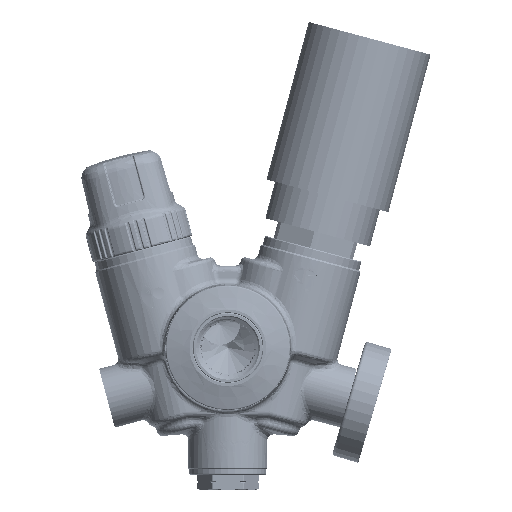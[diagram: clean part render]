
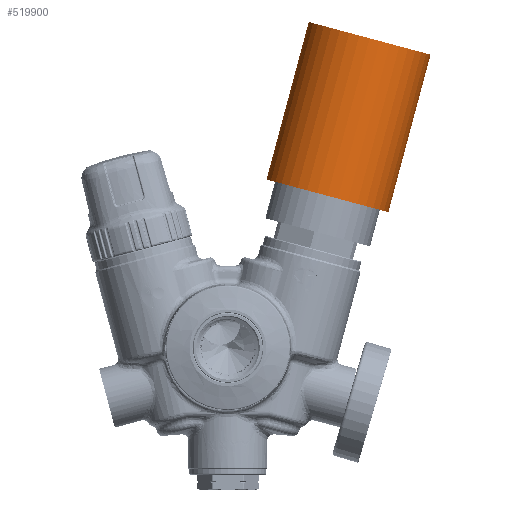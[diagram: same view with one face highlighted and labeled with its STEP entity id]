
A CAD part, left-side view. The second image highlights one B-rep face of the part: STEP entity #519900.
In plain terms, the highlighted cylindrical face has radius 20.766 mm (diameter 41.532 mm), a partial arc.
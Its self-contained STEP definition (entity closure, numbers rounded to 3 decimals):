
#519751 = VERTEX_POINT('',#519752);
#519752 = CARTESIAN_POINT('',(18.931,-41.024,
    94.611));
#519759 = PLANE('',#519760);
#519760 = AXIS2_PLACEMENT_3D('',#519761,#519762,#519763);
#519761 = CARTESIAN_POINT('',(14.198,-24.534,
    99.03));
#519762 = DIRECTION('',(0.,0.259,-0.966));
#519763 = DIRECTION('',(1.,0.,0.));
#519771 = PLANE('',#519772);
#519772 = AXIS2_PLACEMENT_3D('',#519773,#519774,#519775);
#519773 = CARTESIAN_POINT('',(16.428,-47.967,
    120.524));
#519774 = DIRECTION('',(0.,0.966,0.259));
#519775 = DIRECTION('',(0.,-0.259,0.966));
#519783 = EDGE_CURVE('',#519784,#519751,#519786,.T.);
#519784 = VERTEX_POINT('',#519785);
#519785 = CARTESIAN_POINT('',(18.931,-24.534,
    99.03));
#519786 = SURFACE_CURVE('',#519787,(#519792,#519803),.PCURVE_S1.);
#519787 = CIRCLE('',#519788,20.766);
#519788 = AXIS2_PLACEMENT_3D('',#519789,#519790,#519791);
#519789 = CARTESIAN_POINT('',(0.,-32.779,
    96.821));
#519790 = DIRECTION('',(0.,-0.259,0.966));
#519791 = DIRECTION('',(1.,0.,0.));
#519792 = PCURVE('',#519759,#519793);
#519793 = DEFINITIONAL_REPRESENTATION('',(#519794),#519802);
#519794 = ( BOUNDED_CURVE() B_SPLINE_CURVE(2,(#519795,#519796,#519797,
    #519798,#519799,#519800,#519801),.UNSPECIFIED.,.T.,.F.) 
B_SPLINE_CURVE_WITH_KNOTS((1,2,2,2,2,1),(-2.094,0.,
    2.094,4.189,6.283,8.378),
.UNSPECIFIED.) CURVE() GEOMETRIC_REPRESENTATION_ITEM() 
RATIONAL_B_SPLINE_CURVE((1.,0.5,1.,0.5,1.,0.5,1.)) REPRESENTATION_ITEM(
  '') );
#519795 = CARTESIAN_POINT('',(6.568,8.536));
#519796 = CARTESIAN_POINT('',(6.568,-27.432));
#519797 = CARTESIAN_POINT('',(-24.581,-9.448));
#519798 = CARTESIAN_POINT('',(-55.73,8.536));
#519799 = CARTESIAN_POINT('',(-24.581,26.52));
#519800 = CARTESIAN_POINT('',(6.568,44.504));
#519801 = CARTESIAN_POINT('',(6.568,8.536));
#519802 = ( GEOMETRIC_REPRESENTATION_CONTEXT(2) 
PARAMETRIC_REPRESENTATION_CONTEXT() REPRESENTATION_CONTEXT('2D SPACE',''
  ) );
#519803 = PCURVE('',#519804,#519809);
#519804 = CYLINDRICAL_SURFACE('',#519805,20.766);
#519805 = AXIS2_PLACEMENT_3D('',#519806,#519807,#519808);
#519806 = CARTESIAN_POINT('',(0.,-46.665,
    148.646));
#519807 = DIRECTION('',(0.,0.259,-0.966));
#519808 = DIRECTION('',(1.,0.,0.));
#519809 = DEFINITIONAL_REPRESENTATION('',(#519810),#519814);
#519810 = LINE('',#519811,#519812);
#519811 = CARTESIAN_POINT('',(6.283,53.654));
#519812 = VECTOR('',#519813,1.);
#519813 = DIRECTION('',(-1.,0.));
#519814 = ( GEOMETRIC_REPRESENTATION_CONTEXT(2) 
PARAMETRIC_REPRESENTATION_CONTEXT() REPRESENTATION_CONTEXT('2D SPACE',''
  ) );
#519832 = PLANE('',#519833);
#519833 = AXIS2_PLACEMENT_3D('',#519834,#519835,#519836);
#519834 = CARTESIAN_POINT('',(16.428,-31.477,
    124.943));
#519835 = DIRECTION('',(0.,0.966,0.259));
#519836 = DIRECTION('',(0.,-0.259,0.966));
#519900 = ADVANCED_FACE('',(#519901),#519804,.T.);
#519901 = FACE_BOUND('',#519902,.T.);
#519902 = EDGE_LOOP('',(#519903,#519926,#519955,#519976));
#519903 = ORIENTED_EDGE('',*,*,#519904,.F.);
#519904 = EDGE_CURVE('',#519905,#519751,#519907,.T.);
#519905 = VERTEX_POINT('',#519906);
#519906 = CARTESIAN_POINT('',(18.931,-54.91,
    146.437));
#519907 = SURFACE_CURVE('',#519908,(#519912,#519919),.PCURVE_S1.);
#519908 = LINE('',#519909,#519910);
#519909 = CARTESIAN_POINT('',(18.931,-47.967,
    120.524));
#519910 = VECTOR('',#519911,1.);
#519911 = DIRECTION('',(0.,0.259,-0.966));
#519912 = PCURVE('',#519804,#519913);
#519913 = DEFINITIONAL_REPRESENTATION('',(#519914),#519918);
#519914 = LINE('',#519915,#519916);
#519915 = CARTESIAN_POINT('',(0.424,26.827));
#519916 = VECTOR('',#519917,1.);
#519917 = DIRECTION('',(0.,1.));
#519918 = ( GEOMETRIC_REPRESENTATION_CONTEXT(2) 
PARAMETRIC_REPRESENTATION_CONTEXT() REPRESENTATION_CONTEXT('2D SPACE',''
  ) );
#519919 = PCURVE('',#519771,#519920);
#519920 = DEFINITIONAL_REPRESENTATION('',(#519921),#519925);
#519921 = LINE('',#519922,#519923);
#519922 = CARTESIAN_POINT('',(0.,2.503));
#519923 = VECTOR('',#519924,1.);
#519924 = DIRECTION('',(-1.,0.));
#519925 = ( GEOMETRIC_REPRESENTATION_CONTEXT(2) 
PARAMETRIC_REPRESENTATION_CONTEXT() REPRESENTATION_CONTEXT('2D SPACE',''
  ) );
#519926 = ORIENTED_EDGE('',*,*,#519927,.F.);
#519927 = EDGE_CURVE('',#519928,#519905,#519930,.T.);
#519928 = VERTEX_POINT('',#519929);
#519929 = CARTESIAN_POINT('',(18.931,-38.42,
    150.855));
#519930 = SURFACE_CURVE('',#519931,(#519936,#519943),.PCURVE_S1.);
#519931 = CIRCLE('',#519932,20.766);
#519932 = AXIS2_PLACEMENT_3D('',#519933,#519934,#519935);
#519933 = CARTESIAN_POINT('',(0.,-46.665,
    148.646));
#519934 = DIRECTION('',(0.,-0.259,0.966));
#519935 = DIRECTION('',(1.,0.,0.));
#519936 = PCURVE('',#519804,#519937);
#519937 = DEFINITIONAL_REPRESENTATION('',(#519938),#519942);
#519938 = LINE('',#519939,#519940);
#519939 = CARTESIAN_POINT('',(6.283,0.));
#519940 = VECTOR('',#519941,1.);
#519941 = DIRECTION('',(-1.,0.));
#519942 = ( GEOMETRIC_REPRESENTATION_CONTEXT(2) 
PARAMETRIC_REPRESENTATION_CONTEXT() REPRESENTATION_CONTEXT('2D SPACE',''
  ) );
#519943 = PCURVE('',#519944,#519949);
#519944 = PLANE('',#519945);
#519945 = AXIS2_PLACEMENT_3D('',#519946,#519947,#519948);
#519946 = CARTESIAN_POINT('',(22.996,-38.42,
    150.855));
#519947 = DIRECTION('',(0.,-0.259,0.966));
#519948 = DIRECTION('',(-1.,0.,0.));
#519949 = DEFINITIONAL_REPRESENTATION('',(#519950),#519954);
#519950 = CIRCLE('',#519951,20.766);
#519951 = AXIS2_PLACEMENT_2D('',#519952,#519953);
#519952 = CARTESIAN_POINT('',(22.996,8.536));
#519953 = DIRECTION('',(-1.,-0.));
#519954 = ( GEOMETRIC_REPRESENTATION_CONTEXT(2) 
PARAMETRIC_REPRESENTATION_CONTEXT() REPRESENTATION_CONTEXT('2D SPACE',''
  ) );
#519955 = ORIENTED_EDGE('',*,*,#519956,.F.);
#519956 = EDGE_CURVE('',#519784,#519928,#519957,.T.);
#519957 = SURFACE_CURVE('',#519958,(#519962,#519969),.PCURVE_S1.);
#519958 = LINE('',#519959,#519960);
#519959 = CARTESIAN_POINT('',(18.931,-31.477,
    124.943));
#519960 = VECTOR('',#519961,1.);
#519961 = DIRECTION('',(0.,-0.259,0.966));
#519962 = PCURVE('',#519804,#519963);
#519963 = DEFINITIONAL_REPRESENTATION('',(#519964),#519968);
#519964 = LINE('',#519965,#519966);
#519965 = CARTESIAN_POINT('',(5.86,26.827));
#519966 = VECTOR('',#519967,1.);
#519967 = DIRECTION('',(0.,-1.));
#519968 = ( GEOMETRIC_REPRESENTATION_CONTEXT(2) 
PARAMETRIC_REPRESENTATION_CONTEXT() REPRESENTATION_CONTEXT('2D SPACE',''
  ) );
#519969 = PCURVE('',#519832,#519970);
#519970 = DEFINITIONAL_REPRESENTATION('',(#519971),#519975);
#519971 = LINE('',#519972,#519973);
#519972 = CARTESIAN_POINT('',(0.,2.503));
#519973 = VECTOR('',#519974,1.);
#519974 = DIRECTION('',(1.,0.));
#519975 = ( GEOMETRIC_REPRESENTATION_CONTEXT(2) 
PARAMETRIC_REPRESENTATION_CONTEXT() REPRESENTATION_CONTEXT('2D SPACE',''
  ) );
#519976 = ORIENTED_EDGE('',*,*,#519783,.T.);
